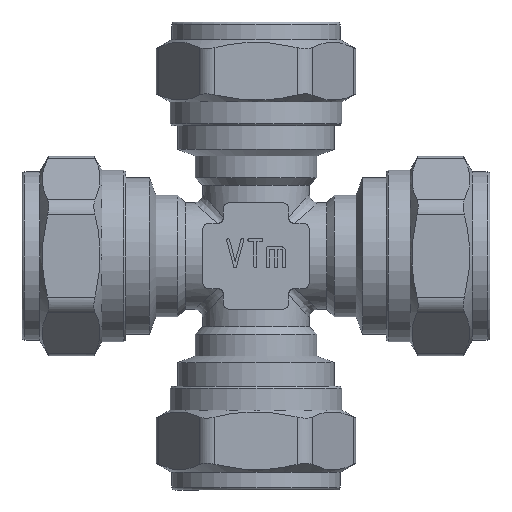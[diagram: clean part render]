
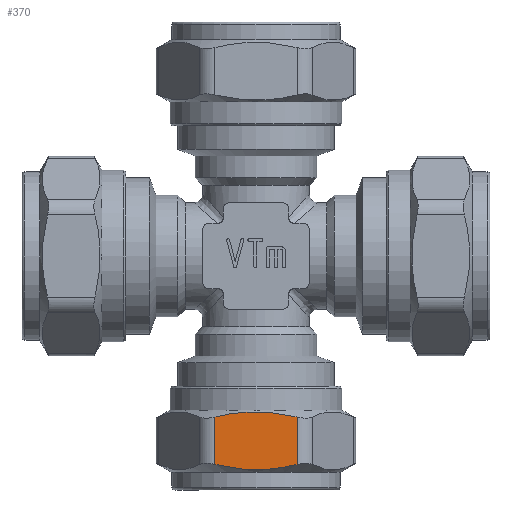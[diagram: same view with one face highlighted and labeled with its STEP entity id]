
A CAD part, left-side view. The second image highlights one B-rep face of the part: STEP entity #370.
In plain terms, the highlighted planar face has unit normal (-1, 0, 0).
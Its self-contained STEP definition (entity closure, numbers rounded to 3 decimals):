
#370=ADVANCED_FACE('',(#4194),#4196,.T.);
#4194=FACE_BOUND('',#4195,.T.);
#4195=EDGE_LOOP('',(#12911,#12912,#12913,#12914));
#4196=PLANE('',#4197);
#4197=AXIS2_PLACEMENT_3D('',#4198,#4199,#4200);
#4198=CARTESIAN_POINT('',(-15.,-8.66,-26.032));
#4199=DIRECTION('',(-1.,0.,0.));
#4200=DIRECTION('',(0.,1.,0.));
#12911=ORIENTED_EDGE('',*,*,#20764,.F.);
#12912=ORIENTED_EDGE('',*,*,#19990,.T.);
#12913=ORIENTED_EDGE('',*,*,#20762,.T.);
#12914=ORIENTED_EDGE('',*,*,#20765,.T.);
#19990=EDGE_CURVE('',#23944,#23942,#23945,.T.);
#20762=EDGE_CURVE('',#23942,#25435,#25436,.T.);
#20764=EDGE_CURVE('',#23944,#25438,#25439,.T.);
#20765=EDGE_CURVE('',#25435,#25438,#25440,.T.);
#23942=VERTEX_POINT('',#33422);
#23944=VERTEX_POINT('',#33466);
#23945=B_SPLINE_CURVE_WITH_KNOTS('',3,
(#33467,#33468,#33469,#33470,#33471,#33472,#33473,#33474,#33475,#33476,#33477,#33478,
#33479,#33480,#33481,#33482,#33483,#33484,#33485,#33486,#33487,#33488,#33489,#33490,
#33491,#33492,#33493,#33494,#33495,#33496,#33497,#33498,#33499,#33500,#33501,#33502,
#33503,#33504,#33505,#33506,#33507,#33508),
.UNSPECIFIED.,.F.,.F.,
(4,1,1,1,1,1,1,1,1,1,1,1,1,1,1,1,1,1,1,1,1,1,1,1,1,1,1,1,1,1,1,1,1,1,1,1,1,1,1,4),
(0.,0.016,0.061,0.061,0.131,0.14,
0.208,0.27,0.283,0.338,0.374,
0.399,0.423,0.425,0.448,0.474,
0.5,0.5,0.526,0.552,0.579,
0.615,0.616,0.65,0.685,0.711,
0.737,0.762,0.787,0.812,0.836,
0.837,0.86,0.884,0.907,0.931,
0.954,0.97,0.977,1.),
.UNSPECIFIED.);
#25435=VERTEX_POINT('',#38593);
#25436=LINE('',#38594,#38595);
#25438=VERTEX_POINT('',#38640);
#25439=LINE('',#38641,#38642);
#25440=B_SPLINE_CURVE_WITH_KNOTS('',3,
(#38644,#38645,#38646,#38647,#38648,#38649,#38650,#38651,#38652,#38653,#38654,#38655,
#38656,#38657,#38658,#38659,#38660,#38661,#38662,#38663,#38664,#38665,#38666,#38667,
#38668,#38669,#38670,#38671,#38672,#38673,#38674,#38675,#38676,#38677,#38678,#38679,
#38680,#38681,#38682,#38683,#38684,#38685,#38686,#38687,#38688,#38689,#38690,#38691,
#38692,#38693,#38694,#38695),
.UNSPECIFIED.,.F.,.F.,
(4,1,1,1,1,1,1,1,1,1,1,1,1,1,1,1,1,1,1,1,1,1,1,1,1,1,1,1,1,1,1,1,1,1,1,1,1,1,1,1,
1,1,1,1,1,1,1,1,1,4),
(0.,0.008,0.033,0.036,0.078,
0.086,0.149,0.165,0.208,0.254,
0.285,0.292,0.314,0.34,0.366,
0.368,0.384,0.392,0.412,0.418,
0.445,0.472,0.499,0.5,0.506,
0.526,0.554,0.582,0.61,0.637,
0.653,0.664,0.691,0.717,0.743,
0.767,0.791,0.813,0.823,0.835,
0.856,0.876,0.895,0.914,0.932,
0.95,0.961,0.967,0.984,1.),
.UNSPECIFIED.);
#33422=CARTESIAN_POINT('',(-15.,6.928,-27.2));
#33466=CARTESIAN_POINT('',(-15.,-6.928,-27.2));
#33467=CARTESIAN_POINT('',(-15.,-6.928,-27.2));
#33468=CARTESIAN_POINT('',(-15.,-6.856,-27.182));
#33469=CARTESIAN_POINT('',(-15.,-6.58,-27.116));
#33470=CARTESIAN_POINT('',(-15.,-6.303,-27.053));
#33471=CARTESIAN_POINT('',(-15.,-5.777,-26.939));
#33472=CARTESIAN_POINT('',(-15.,-5.414,-26.865));
#33473=CARTESIAN_POINT('',(-15.,-4.737,-26.74));
#33474=CARTESIAN_POINT('',(-15.,-4.099,-26.634));
#33475=CARTESIAN_POINT('',(-15.,-3.439,-26.543));
#33476=CARTESIAN_POINT('',(-15.,-2.84,-26.473));
#33477=CARTESIAN_POINT('',(-15.,-2.353,-26.424));
#33478=CARTESIAN_POINT('',(-15.,-1.815,-26.383));
#33479=CARTESIAN_POINT('',(-15.,-1.416,-26.358));
#33480=CARTESIAN_POINT('',(-15.,-1.182,-26.347));
#33481=CARTESIAN_POINT('',(-15.,-0.951,-26.338));
#33482=CARTESIAN_POINT('',(-15.,-0.715,-26.33));
#33483=CARTESIAN_POINT('',(-15.,-0.364,-26.322));
#33484=CARTESIAN_POINT('',(-15.,-0.123,-26.321));
#33485=CARTESIAN_POINT('',(-15.,0.12,-26.321));
#33486=CARTESIAN_POINT('',(-15.,0.366,-26.322));
#33487=CARTESIAN_POINT('',(-15.,0.736,-26.33));
#33488=CARTESIAN_POINT('',(-15.,1.151,-26.345));
#33489=CARTESIAN_POINT('',(-15.,1.449,-26.36));
#33490=CARTESIAN_POINT('',(-15.,1.78,-26.381));
#33491=CARTESIAN_POINT('',(-15.,2.108,-26.404));
#33492=CARTESIAN_POINT('',(-15.,2.549,-26.444));
#33493=CARTESIAN_POINT('',(-15.,2.951,-26.486));
#33494=CARTESIAN_POINT('',(-15.,3.306,-26.528));
#33495=CARTESIAN_POINT('',(-15.,3.657,-26.574));
#33496=CARTESIAN_POINT('',(-15.,4.002,-26.623));
#33497=CARTESIAN_POINT('',(-15.,4.343,-26.676));
#33498=CARTESIAN_POINT('',(-15.,4.571,-26.714));
#33499=CARTESIAN_POINT('',(-15.,4.794,-26.752));
#33500=CARTESIAN_POINT('',(-15.,5.014,-26.791));
#33501=CARTESIAN_POINT('',(-15.,5.339,-26.852));
#33502=CARTESIAN_POINT('',(-15.,5.663,-26.917));
#33503=CARTESIAN_POINT('',(-15.,5.983,-26.983));
#33504=CARTESIAN_POINT('',(-15.,6.269,-27.046));
#33505=CARTESIAN_POINT('',(-15.,6.479,-27.094));
#33506=CARTESIAN_POINT('',(-15.,6.689,-27.142));
#33507=CARTESIAN_POINT('',(-15.,6.824,-27.174));
#33508=CARTESIAN_POINT('',(-15.,6.928,-27.2));
#38593=CARTESIAN_POINT('',(-15.,6.928,-35.22));
#38594=CARTESIAN_POINT('',(-15.,6.928,-27.2));
#38595=VECTOR('',#38596,1.);
#38596=DIRECTION('',(0.,0.,-1.));
#38640=CARTESIAN_POINT('',(-15.,-6.928,-35.22));
#38641=CARTESIAN_POINT('',(-15.,-6.928,-27.2));
#38642=VECTOR('',#38643,1.);
#38643=DIRECTION('',(0.,0.,-1.));
#38644=CARTESIAN_POINT('',(-15.,6.928,-35.22));
#38645=CARTESIAN_POINT('',(-15.,6.89,-35.229));
#38646=CARTESIAN_POINT('',(-15.,6.742,-35.264));
#38647=CARTESIAN_POINT('',(-15.,6.577,-35.303));
#38648=CARTESIAN_POINT('',(-15.,6.259,-35.376));
#38649=CARTESIAN_POINT('',(-15.,6.016,-35.429));
#38650=CARTESIAN_POINT('',(-15.,5.501,-35.536));
#38651=CARTESIAN_POINT('',(-15.,5.104,-35.613));
#38652=CARTESIAN_POINT('',(-15.,4.542,-35.712));
#38653=CARTESIAN_POINT('',(-15.,4.057,-35.79));
#38654=CARTESIAN_POINT('',(-15.,3.501,-35.868));
#38655=CARTESIAN_POINT('',(-15.,3.114,-35.915));
#38656=CARTESIAN_POINT('',(-15.,2.839,-35.945));
#38657=CARTESIAN_POINT('',(-15.,2.587,-35.972));
#38658=CARTESIAN_POINT('',(-15.,2.242,-36.003));
#38659=CARTESIAN_POINT('',(-15.,1.987,-36.023));
#38660=CARTESIAN_POINT('',(-15.,1.779,-36.038));
#38661=CARTESIAN_POINT('',(-15.,1.657,-36.046));
#38662=CARTESIAN_POINT('',(-15.,1.456,-36.058));
#38663=CARTESIAN_POINT('',(-15.,1.298,-36.067));
#38664=CARTESIAN_POINT('',(-15.,1.05,-36.078));
#38665=CARTESIAN_POINT('',(-15.,0.77,-36.088));
#38666=CARTESIAN_POINT('',(-15.,0.393,-36.097));
#38667=CARTESIAN_POINT('',(-15.,0.136,-36.099));
#38668=CARTESIAN_POINT('',(-15.,-0.026,-36.099));
#38669=CARTESIAN_POINT('',(-15.,-0.153,-36.099));
#38670=CARTESIAN_POINT('',(-15.,-0.406,-36.096));
#38671=CARTESIAN_POINT('',(-15.,-0.758,-36.089));
#38672=CARTESIAN_POINT('',(-15.,-1.146,-36.075));
#38673=CARTESIAN_POINT('',(-15.,-1.533,-36.055));
#38674=CARTESIAN_POINT('',(-15.,-1.865,-36.033));
#38675=CARTESIAN_POINT('',(-15.,-2.12,-36.013));
#38676=CARTESIAN_POINT('',(-15.,-2.371,-35.992));
#38677=CARTESIAN_POINT('',(-15.,-2.668,-35.964));
#38678=CARTESIAN_POINT('',(-15.,-3.032,-35.925));
#38679=CARTESIAN_POINT('',(-15.,-3.383,-35.882));
#38680=CARTESIAN_POINT('',(-15.,-3.723,-35.837));
#38681=CARTESIAN_POINT('',(-15.,-4.049,-35.789));
#38682=CARTESIAN_POINT('',(-15.,-4.306,-35.749));
#38683=CARTESIAN_POINT('',(-15.,-4.509,-35.716));
#38684=CARTESIAN_POINT('',(-15.,-4.705,-35.683));
#38685=CARTESIAN_POINT('',(-15.,-4.95,-35.64));
#38686=CARTESIAN_POINT('',(-15.,-5.228,-35.588));
#38687=CARTESIAN_POINT('',(-15.,-5.496,-35.536));
#38688=CARTESIAN_POINT('',(-15.,-5.753,-35.484));
#38689=CARTESIAN_POINT('',(-15.,-6.002,-35.432));
#38690=CARTESIAN_POINT('',(-15.,-6.214,-35.385));
#38691=CARTESIAN_POINT('',(-15.,-6.371,-35.35));
#38692=CARTESIAN_POINT('',(-15.,-6.525,-35.315));
#38693=CARTESIAN_POINT('',(-15.,-6.703,-35.274));
#38694=CARTESIAN_POINT('',(-15.,-6.854,-35.238));
#38695=CARTESIAN_POINT('',(-15.,-6.928,-35.22));
